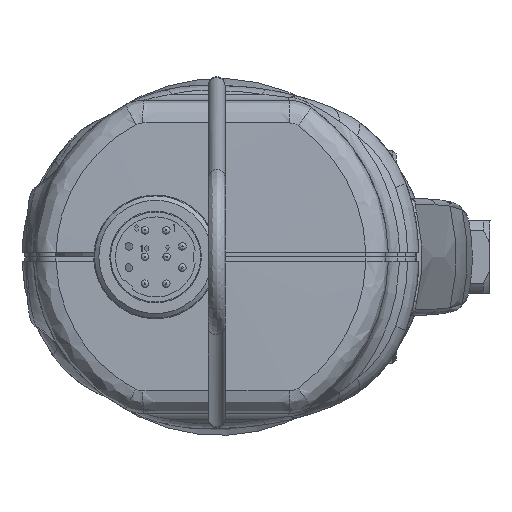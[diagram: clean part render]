
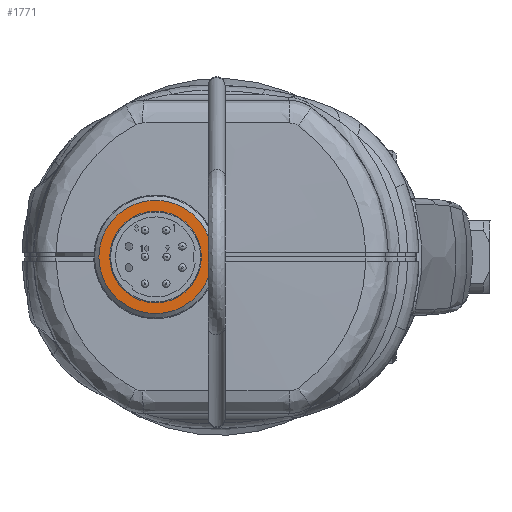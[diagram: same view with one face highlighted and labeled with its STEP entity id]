
A CAD part, front view. The second image highlights one B-rep face of the part: STEP entity #1771.
In plain terms, the highlighted planar face has unit normal (0, -1, 0).
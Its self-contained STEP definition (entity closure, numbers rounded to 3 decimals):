
#751 = VERTEX_POINT ( 'NONE', #25408 ) ;
#1482 = VERTEX_POINT ( 'NONE', #74192 ) ;
#1771 = ADVANCED_FACE ( 'NONE', ( #56212, #20524 ), #18915, .F. ) ;
#1940 = EDGE_CURVE ( 'NONE', #1482, #1482, #52635, .T. ) ;
#4299 = AXIS2_PLACEMENT_3D ( 'NONE', #38375, #37599, #12963 ) ;
#5460 = AXIS2_PLACEMENT_3D ( 'NONE', #49519, #38836, #8633 ) ;
#6083 = CARTESIAN_POINT ( 'NONE',  ( -37.56, -190.321, 0. ) ) ;
#8633 = DIRECTION ( 'NONE',  ( 0., 0., 1. ) ) ;
#12963 = DIRECTION ( 'NONE',  ( 0., 0., 1. ) ) ;
#16479 = DIRECTION ( 'NONE',  ( 0., 0., 1. ) ) ;
#18915 = PLANE ( 'NONE',  #4299 ) ;
#20524 = FACE_BOUND ( 'NONE', #38440, .T. ) ;
#25408 = CARTESIAN_POINT ( 'NONE',  ( -37.56, -190.321, 7.425 ) ) ;
#26059 = ORIENTED_EDGE ( 'NONE', *, *, #78534, .F. ) ;
#30358 = DIRECTION ( 'NONE',  ( 0., 1., 0. ) ) ;
#34645 = EDGE_LOOP ( 'NONE', ( #26059 ) ) ;
#37599 = DIRECTION ( 'NONE',  ( 0., 1., 0. ) ) ;
#38375 = CARTESIAN_POINT ( 'NONE',  ( -37.56, -190.321, -6. ) ) ;
#38440 = EDGE_LOOP ( 'NONE', ( #47901 ) ) ;
#38836 = DIRECTION ( 'NONE',  ( 0., 1., 0. ) ) ;
#47901 = ORIENTED_EDGE ( 'NONE', *, *, #1940, .T. ) ;
#49519 = CARTESIAN_POINT ( 'NONE',  ( -37.56, -190.321, 0. ) ) ;
#52635 = CIRCLE ( 'NONE', #70380, 6. ) ;
#56212 = FACE_OUTER_BOUND ( 'NONE', #34645, .T. ) ;
#63870 = CIRCLE ( 'NONE', #5460, 7.425 ) ;
#70380 = AXIS2_PLACEMENT_3D ( 'NONE', #6083, #30358, #16479 ) ;
#74192 = CARTESIAN_POINT ( 'NONE',  ( -37.56, -190.321, 6. ) ) ;
#78534 = EDGE_CURVE ( 'NONE', #751, #751, #63870, .T. ) ;
